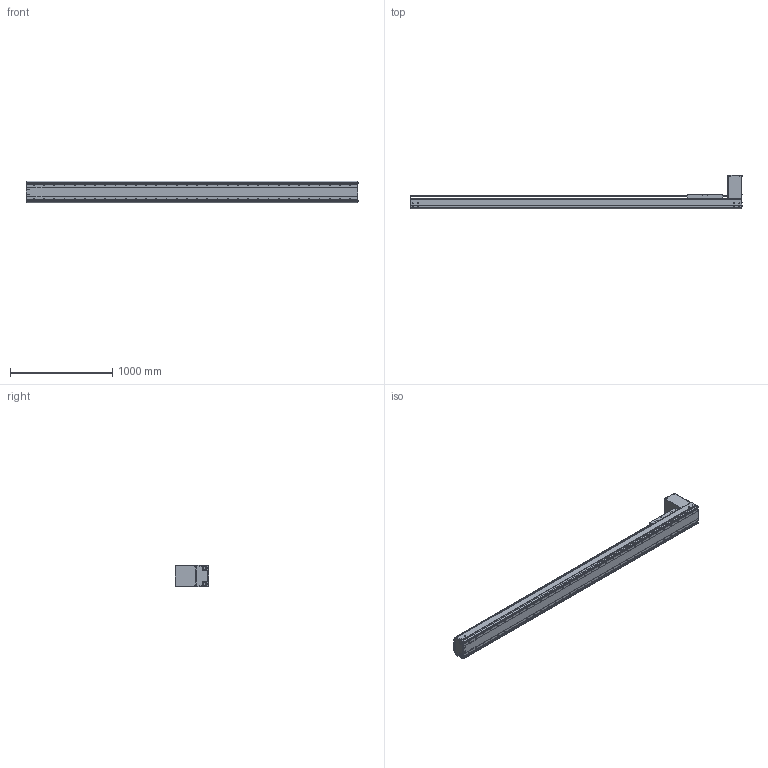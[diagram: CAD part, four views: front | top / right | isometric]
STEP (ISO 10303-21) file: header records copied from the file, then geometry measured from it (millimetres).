
FILE_DESCRIPTION((''),'2;1');
FILE_NAME('BE60J-BT-L19N-S5_IGS_PRT','2017-06-18T',(' '),(''),'PRO/ENGINEER BY PARAMETRIC TECHNOLOGY CORPORATION, 2015030','PRO/ENGINEER BY PARAMETRIC TECHNOLOGY CORPORATION, 2015030','');
FILE_SCHEMA(('CONFIG_CONTROL_DESIGN'));
Products named in the file (1): BE60J-BT-L19N-S5_IGS_PRT
Bounding box: 3254.4 x 327.5 x 214 mm (x, y, z)
Volume: 24996229.3 mm3; surface area: 6912772.3 mm2
Topology: 2 solids, 385 shells, 2638 faces, 7509 edges, 5053 vertices
Faces by surface type: cylinder 1340, plane 896, cone 306, torus 48, sphere 48
Entity records: 88775 total; most frequent: CARTESIAN_POINT 20852, DIRECTION 14127, ORIENTED_EDGE 13264, EDGE_CURVE 7284, AXIS2_PLACEMENT_3D 5421, VERTEX_POINT 5036, VECTOR 3285, LINE 3285
